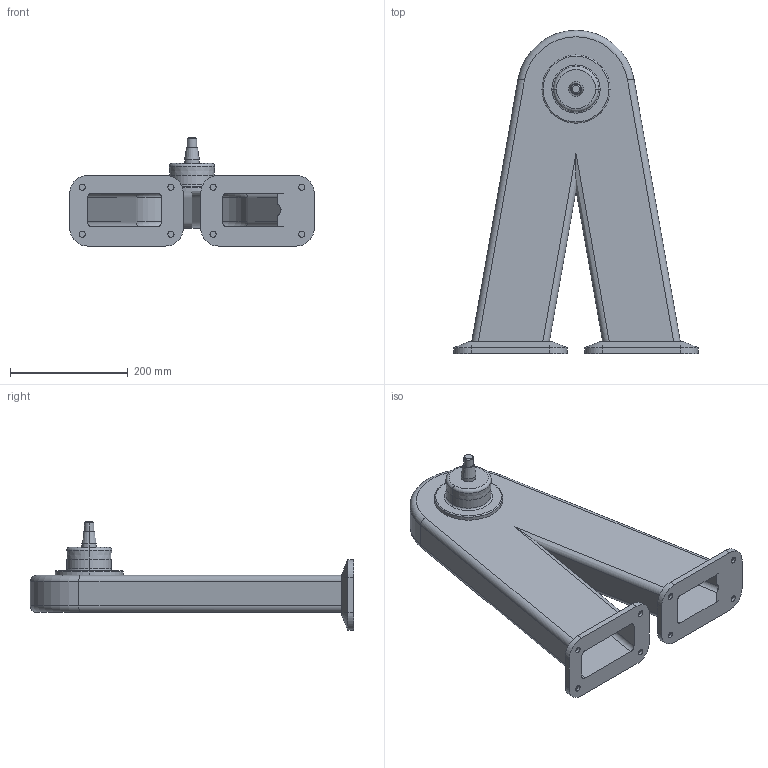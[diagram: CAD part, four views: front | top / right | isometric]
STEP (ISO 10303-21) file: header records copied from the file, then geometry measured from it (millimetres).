
FILE_DESCRIPTION (( 'STEP AP214' ), '1' );
FILE_NAME ('WP850_H450.STEP', '2014-09-08T12:55:35', ( '' ), ( '' ), 'SwSTEP 2.0', 'SolidWorks 2014', '' );
FILE_SCHEMA (( 'AUTOMOTIVE_DESIGN' ));
Length unit declared in the file: millimetre
Products named in the file (1): WP850_H450
Bounding box: 415.72 x 550 x 183.98 mm (x, y, z)
Volume: 1731654.3 mm3; surface area: 765548.8 mm2
Topology: 1 solids, 1 shells, 152 faces, 347 edges, 218 vertices
Faces by surface type: cylinder 76, plane 52, cone 14, torus 10
Entity records: 4347 total; most frequent: DIRECTION 791, CARTESIAN_POINT 778, ORIENTED_EDGE 694, EDGE_CURVE 347, AXIS2_PLACEMENT_3D 311, VERTEX_POINT 218, EDGE_LOOP 185, LINE 169
